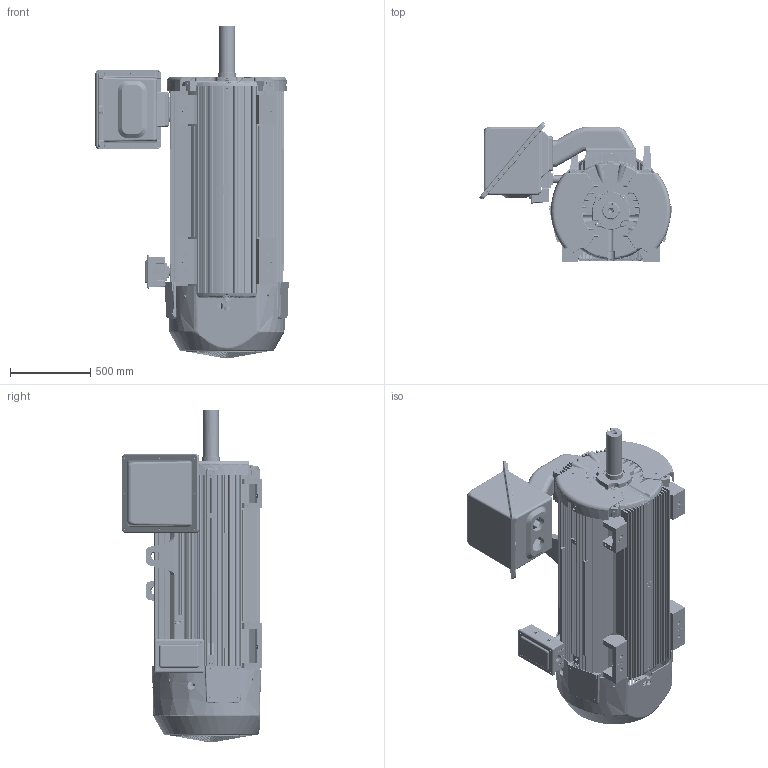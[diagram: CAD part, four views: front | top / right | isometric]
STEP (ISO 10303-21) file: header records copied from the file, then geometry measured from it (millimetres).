
FILE_DESCRIPTION((''),'2;1');
FILE_NAME('5000S_J_ASM','2016-05-04T',('emd2341'),('Nidec Motor Corporation'),'PRO/ENGINEER BY PARAMETRIC TECHNOLOGY CORPORATION, 2013150','PRO/ENGINEER BY PARAMETRIC TECHNOLOGY CORPORATION, 2013150','');
FILE_SCHEMA(('CONFIG_CONTROL_DESIGN'));
Length unit declared in the file: inch
Products named in the file (23): 0467641; 0467645; 0618662; 0618661; 0866307-RC; 0618668-001; 0467646-001; 0467658; 0618666; 0467659; 0933178; 0475628; 0475629; 0114382; 0582109; 0635416; 0814517; 0618664; 0623604-2; 0623601; 0623604-1; 0623603; 5000S_J_ASM
Assembly tree (31 placements, depth 2):
  5000S_J_ASM
    0467641
    0467645
    0618662
    0618661
    0866307-RC
    0618668-001  x2
    0467646-001
    0467658  x2
    0618666
    0467659
    0933178
    0475628
    0475629
    0114382  x3
    0582109  x6
    0635416
    0814517
    0618664
    0623604-2
    0623601
    0623604-1
    0623603
Bounding box: 1205.09 x 871.3 x 2070.23 mm (x, y, z)
Volume: 151402011.4 mm3; surface area: 23343603.6 mm2
Topology: 31 solids, 31 shells, 7315 faces, 18279 edges, 10961 vertices
Faces by surface type: cylinder 2551, plane 1839, bspline 1573, torus 600, cone 520, sphere 232
Entity records: 283630 total; most frequent: CARTESIAN_POINT 124806, ORIENTED_EDGE 35300, DIRECTION 30563, EDGE_CURVE 17650, AXIS2_PLACEMENT_3D 12213, VERTEX_POINT 10660, EDGE_LOOP 7754, FACE_OUTER_BOUND 7095
